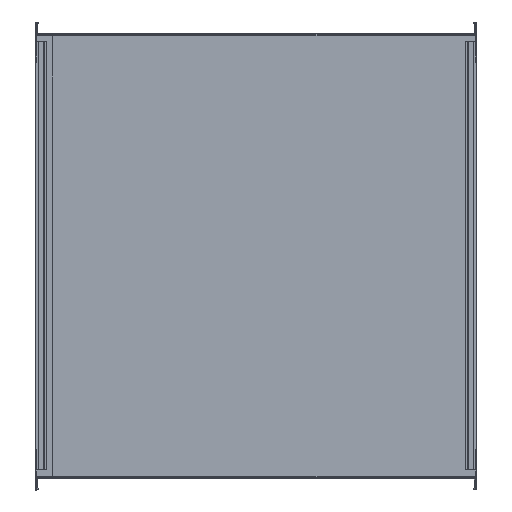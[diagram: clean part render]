
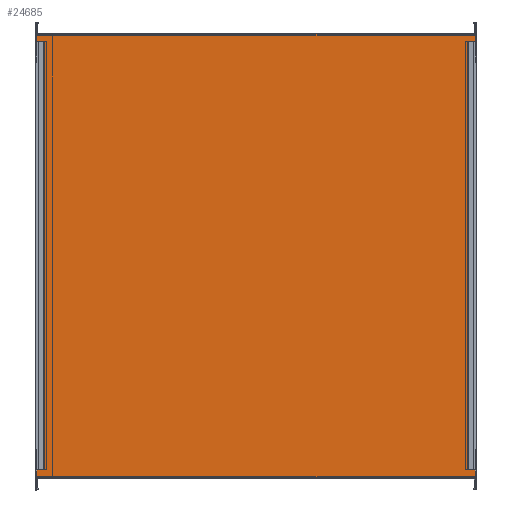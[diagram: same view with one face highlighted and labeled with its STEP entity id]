
A CAD part, top view. The second image highlights one B-rep face of the part: STEP entity #24685.
In plain terms, the highlighted planar face has unit normal (0, 0, 1).
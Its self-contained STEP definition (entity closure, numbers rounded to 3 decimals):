
#1119=FACE_BOUND('',#4928,.T.);
#1120=FACE_BOUND('',#4929,.T.);
#3613=FACE_OUTER_BOUND('',#4927,.T.);
#4927=EDGE_LOOP('',(#22815,#22816,#22817,#22818,#22819,#22820));
#4928=EDGE_LOOP('',(#22821,#22822,#22823,#22824));
#4929=EDGE_LOOP('',(#22825,#22826,#22827,#22828));
#5002=LINE('',#31301,#7480);
#5019=LINE('',#31357,#7497);
#5087=LINE('',#31587,#7565);
#5685=LINE('',#33033,#8163);
#5688=LINE('',#33039,#8166);
#5699=LINE('',#33066,#8177);
#6210=LINE('',#34308,#8688);
#6213=LINE('',#34314,#8691);
#6222=LINE('',#34338,#8700);
#6618=LINE('',#35639,#9096);
#6621=LINE('',#35644,#9099);
#7004=LINE('',#38880,#9482);
#7405=LINE('',#42530,#9883);
#7408=LINE('',#42535,#9886);
#7480=VECTOR('',#26168,10.);
#7497=VECTOR('',#26209,10.);
#7565=VECTOR('',#26379,10.);
#8163=VECTOR('',#27643,10.);
#8166=VECTOR('',#27648,10.);
#8177=VECTOR('',#27681,10.);
#8688=VECTOR('',#28916,10.);
#8691=VECTOR('',#28921,10.);
#8700=VECTOR('',#28952,10.);
#9096=VECTOR('',#29902,10.);
#9099=VECTOR('',#29907,10.);
#9482=VECTOR('',#30470,10.);
#9883=VECTOR('',#31059,10.);
#9886=VECTOR('',#31066,10.);
#9989=VERTEX_POINT('',#31299);
#9990=VERTEX_POINT('',#31300);
#10016=VERTEX_POINT('',#31354);
#10017=VERTEX_POINT('',#31356);
#10127=VERTEX_POINT('',#31585);
#10128=VERTEX_POINT('',#31586);
#10643=VERTEX_POINT('',#33031);
#10644=VERTEX_POINT('',#33035);
#11019=VERTEX_POINT('',#34306);
#11020=VERTEX_POINT('',#34310);
#11285=VERTEX_POINT('',#35638);
#11286=VERTEX_POINT('',#35642);
#11733=VERTEX_POINT('',#38879);
#12223=VERTEX_POINT('',#42528);
#12331=EDGE_CURVE('',#9989,#9990,#5002,.T.);
#12359=EDGE_CURVE('',#10017,#10016,#5019,.T.);
#12472=EDGE_CURVE('',#10127,#10128,#5087,.T.);
#13204=EDGE_CURVE('',#10016,#10643,#5685,.T.);
#13207=EDGE_CURVE('',#10644,#10017,#5688,.T.);
#13222=EDGE_CURVE('',#10643,#10644,#5699,.T.);
#13851=EDGE_CURVE('',#10128,#11019,#6210,.T.);
#13854=EDGE_CURVE('',#11020,#10127,#6213,.T.);
#13867=EDGE_CURVE('',#11019,#11020,#6222,.T.);
#14344=EDGE_CURVE('',#9990,#11285,#6618,.T.);
#14347=EDGE_CURVE('',#11286,#9989,#6621,.T.);
#15022=EDGE_CURVE('',#11285,#11733,#7004,.T.);
#15757=EDGE_CURVE('',#11286,#12223,#7405,.T.);
#15760=EDGE_CURVE('',#11733,#12223,#7408,.T.);
#22815=ORIENTED_EDGE('',*,*,#14347,.F.);
#22816=ORIENTED_EDGE('',*,*,#15757,.T.);
#22817=ORIENTED_EDGE('',*,*,#15760,.F.);
#22818=ORIENTED_EDGE('',*,*,#15022,.F.);
#22819=ORIENTED_EDGE('',*,*,#14344,.F.);
#22820=ORIENTED_EDGE('',*,*,#12331,.F.);
#22821=ORIENTED_EDGE('',*,*,#13207,.T.);
#22822=ORIENTED_EDGE('',*,*,#12359,.T.);
#22823=ORIENTED_EDGE('',*,*,#13204,.T.);
#22824=ORIENTED_EDGE('',*,*,#13222,.T.);
#22825=ORIENTED_EDGE('',*,*,#13854,.T.);
#22826=ORIENTED_EDGE('',*,*,#12472,.T.);
#22827=ORIENTED_EDGE('',*,*,#13851,.T.);
#22828=ORIENTED_EDGE('',*,*,#13867,.T.);
#23494=PLANE('',#25995);
#24685=ADVANCED_FACE('',(#3613,#1119,#1120),#23494,.T.);
#25995=AXIS2_PLACEMENT_3D('',#42539,#31072,#31073);
#26168=DIRECTION('',(0.,1.,0.));
#26209=DIRECTION('',(1.,0.,0.));
#26379=DIRECTION('',(-1.,0.,0.));
#27643=DIRECTION('',(0.,-1.,0.));
#27648=DIRECTION('',(0.,1.,0.));
#27681=DIRECTION('',(-1.,0.,0.));
#28916=DIRECTION('',(0.,1.,0.));
#28921=DIRECTION('',(0.,-1.,0.));
#28952=DIRECTION('',(1.,0.,0.));
#29902=DIRECTION('',(0.,1.,0.));
#29907=DIRECTION('',(0.,1.,0.));
#30470=DIRECTION('',(1.,0.,0.));
#31059=DIRECTION('',(1.,0.,0.));
#31066=DIRECTION('',(0.,-1.,0.));
#31072=DIRECTION('center_axis',(0.,0.,1.));
#31073=DIRECTION('ref_axis',(1.,0.,0.));
#31299=CARTESIAN_POINT('',(-998.,16.5,1.5));
#31300=CARTESIAN_POINT('',(-998.,986.5,1.5));
#31301=CARTESIAN_POINT('',(-998.,0.,1.5));
#31354=CARTESIAN_POINT('',(-978.359,986.5,1.5));
#31356=CARTESIAN_POINT('',(-991.81,986.5,1.5));
#31357=CARTESIAN_POINT('',(-745.51,986.5,1.5));
#31585=CARTESIAN_POINT('',(-5.79,16.5,1.5));
#31586=CARTESIAN_POINT('',(-19.241,16.5,1.5));
#31587=CARTESIAN_POINT('',(-252.29,16.5,1.5));
#33031=CARTESIAN_POINT('',(-978.359,16.5,1.5));
#33033=CARTESIAN_POINT('',(-978.359,744.,1.5));
#33035=CARTESIAN_POINT('',(-991.81,16.5,1.5));
#33039=CARTESIAN_POINT('',(-991.81,986.5,1.5));
#33066=CARTESIAN_POINT('',(-745.51,16.5,1.5));
#34306=CARTESIAN_POINT('',(-19.241,986.5,1.5));
#34308=CARTESIAN_POINT('',(-19.241,259.,1.5));
#34310=CARTESIAN_POINT('',(-5.79,986.5,1.5));
#34314=CARTESIAN_POINT('',(-5.79,16.5,1.5));
#34338=CARTESIAN_POINT('',(-252.29,986.5,1.5));
#35638=CARTESIAN_POINT('',(-998.,1003.,1.5));
#35639=CARTESIAN_POINT('',(-998.,0.,1.5));
#35642=CARTESIAN_POINT('',(-998.,0.,1.5));
#35644=CARTESIAN_POINT('',(-998.,0.,1.5));
#38879=CARTESIAN_POINT('',(0.,1003.,1.5));
#38880=CARTESIAN_POINT('',(-748.5,1003.,1.5));
#42528=CARTESIAN_POINT('',(0.,0.,1.5));
#42530=CARTESIAN_POINT('',(-249.5,0.,1.5));
#42535=CARTESIAN_POINT('',(0.,1003.,1.5));
#42539=CARTESIAN_POINT('Origin',(-499.,501.5,1.5));
